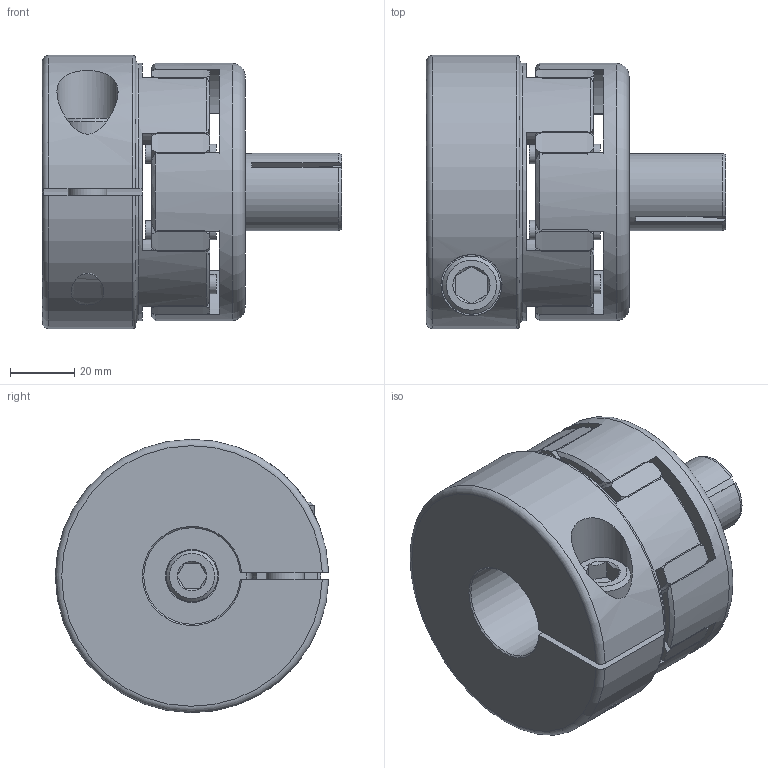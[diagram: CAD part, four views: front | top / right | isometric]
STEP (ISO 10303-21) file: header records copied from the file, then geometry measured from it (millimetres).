
FILE_DESCRIPTION(/* description */ ('STEP AP214'),/* implementation_level */ '2;1');
FILE_NAME(/* name */ 'EKS 200 - D1=30 D2=24',/* time_stamp */ '2026-10-28T12:28:57+01:00',/* author */ ('License CC BY-ND 4.0'),/* organization */ ('CADENAS'),/* preprocessor_version */ 'ST-DEVELOPER v20',/* originating_system */ 'PARTsolutions',/* authorisation */ ' ');
FILE_SCHEMA (('AUTOMOTIVE_DESIGN {1 0 10303 214 3 1 1}'));
Length unit declared in the file: millimetre
Products named in the file (6): EKS 200 - D1=30 D2=24; EKS 200 - D1=30_1_part1; 300; EKS 200 - D2=24_part2; Cylinder screw ISO 4762 M10x30; Cylinder screw ISO 4762 M12x30
Assembly tree (5 placements, depth 2):
  EKS 200 - D1=30 D2=24
    EKS 200 - D1=30_1_part1
    300
    EKS 200 - D2=24_part2
    Cylinder screw ISO 4762 M10x30
    Cylinder screw ISO 4762 M12x30
Bounding box: 93 x 84.99 x 84.99 mm (x, y, z)
Volume: 278544.1 mm3; surface area: 69584 mm2
Topology: 5 solids, 5 shells, 247 faces, 589 edges, 368 vertices
Faces by surface type: cone 94, cylinder 85, plane 58, torus 10
Full cylindrical faces by diameter (mm): 6 x8, 8.5 x1, 10 x1, 10.2 x1, 10.4 x1, 12 x1, 12.5 x1, 16 x1, 16.5 x1, 17 x1, 18 x1, 19 x1, 24 x1, 38 x2, 80 x1
Entity records: 7702 total; most frequent: CARTESIAN_POINT 1613, DIRECTION 1208, ORIENTED_EDGE 1084, AXIS2_PLACEMENT_3D 544, EDGE_CURVE 542, VERTEX_POINT 364, EDGE_LOOP 316, FACE_BOUND 316
